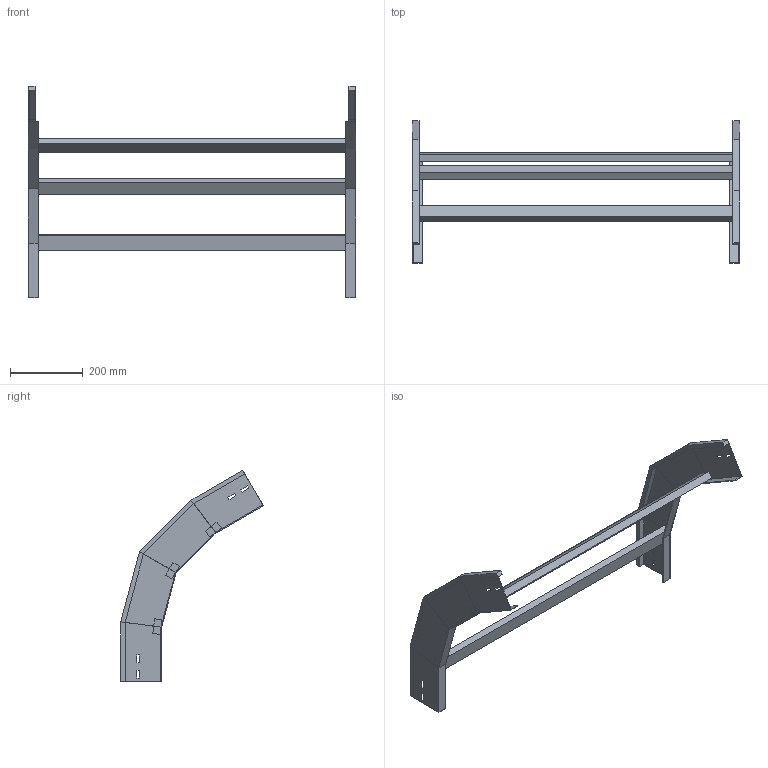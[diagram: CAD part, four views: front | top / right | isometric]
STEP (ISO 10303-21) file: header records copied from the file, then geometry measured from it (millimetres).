
FILE_DESCRIPTION (( 'STEP AP214' ), '1' );
FILE_NAME ('A2_41B3J900.step', '2025-02-21T14:58:38', ( '' ), ( '' ), 'SwSTEP 2.0', 'SolidWorks 2023', '' );
FILE_SCHEMA (( 'AUTOMOTIVE_DESIGN' ));
Length unit declared in the file: millimetre
Products named in the file (3): A2_41B3J900; LONGH.DISCESA_60°_H112.5_R300; TRAVERSINO_900
Assembly tree (5 placements, depth 2):
  A2_41B3J900
    LONGH.DISCESA_60°_H112.5_R300  x2
    TRAVERSINO_900  x3
Bounding box: 900 x 392.12 x 581.75 mm (x, y, z)
Volume: 2815009.3 mm3; surface area: 744581.2 mm2
Topology: 5 solids, 5 shells, 118 faces, 276 edges, 168 vertices
Faces by surface type: plane 118
Entity records: 1672 total; most frequent: CARTESIAN_POINT 276, ORIENTED_EDGE 264, DIRECTION 260, EDGE_CURVE 132, VECTOR 132, LINE 132, VERTEX_POINT 80, EDGE_LOOP 64
